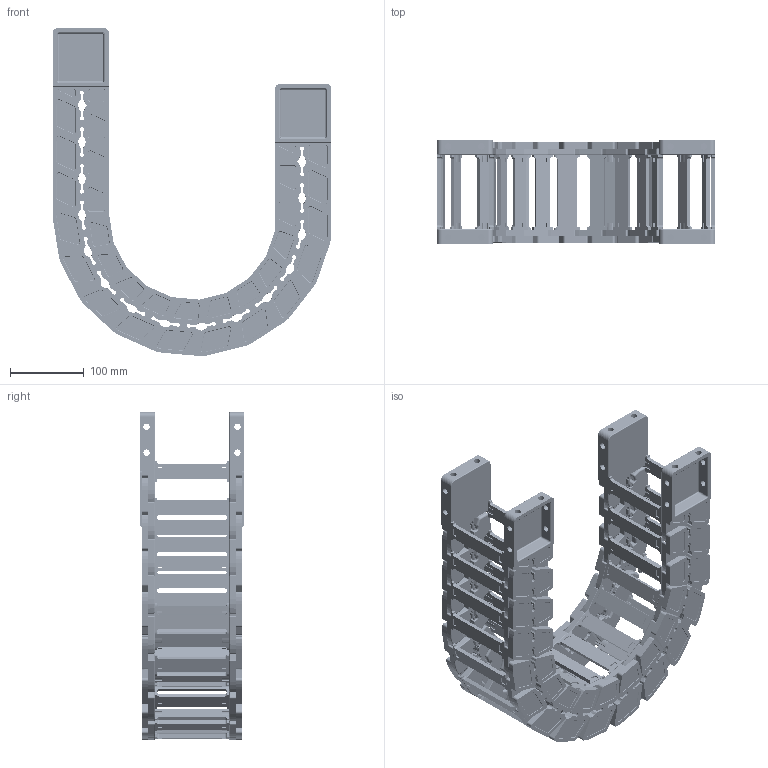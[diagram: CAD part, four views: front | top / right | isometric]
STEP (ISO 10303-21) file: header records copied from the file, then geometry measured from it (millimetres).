
FILE_DESCRIPTION((''),'2;1');
FILE_NAME('65X100-R150_ASM','2026-02-27T11:38:50',('admin'),(''),'CREO PARAMETRIC BY PTC INC, 2021023','CREO PARAMETRIC BY PTC INC, 2021023','');
FILE_SCHEMA(('CONFIG_CONTROL_DESIGN'));
Length unit declared in the file: millimetre
Products named in the file (9): 65ZT-R115-L; 25QSYP; 65ZT-R115-R; ASM0001_ASM; 65-LTT-A1; 65-LTT-A2; 65-LTT-B1; 65-LTT-B2; 65X100-R150_ASM
Assembly tree (26 placements, depth 3):
  65X100-R150_ASM
    ASM0001_ASM  x14
      65ZT-R115-L
      25QSYP
      65ZT-R115-R
    65-LTT-A1
    65-LTT-A2
    65-LTT-B1
    65-LTT-B2
    25QSYP  x4
Bounding box: 376.85 x 141 x 443.8 mm (x, y, z)
Volume: 2078722.3 mm3; surface area: 746787.4 mm2
Topology: 64 solids, 64 shells, 7618 faces, 20704 edges, 13042 vertices
Faces by surface type: plane 2890, cylinder 2638, bspline 944, cone 462, torus 294, extrusion 210, sphere 180
Entity records: 42123 total; most frequent: CARTESIAN_POINT 14714, ORIENTED_EDGE 5932, DIRECTION 5420, EDGE_CURVE 2966, AXIS2_PLACEMENT_3D 1966, VERTEX_POINT 1874, VECTOR 1488, LINE 1460
